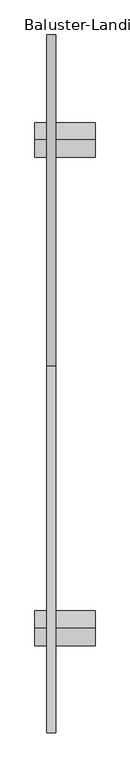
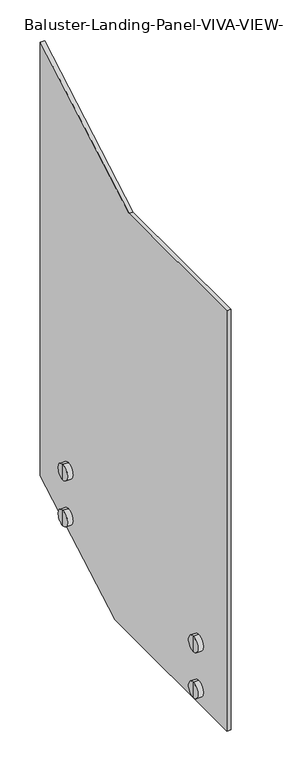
"""IFC4 building model written with IfcOpenShell, lengths in millimetres: railing geometry, Baluster-Landing-Panel-VIVA-VIEW-Upper : Standard_Glass."""

from ifc_helpers import new_model, si_unit, frame, origin, place, context, project, spatial, polyline, circle_curve, outline, extrude, source, transform, mapped, element, save
from ifc_brep_helpers import plane_surface, cylinder_surface, advanced_brep


def baluster_landing_panel_viva_view_upper_standard_glass_61d0895f(model_context):
    return source(origin(), model_context, "Body", "SolidModel", [
        advanced_brep(
        [(14.1452292, -152.4, -161.189208), (14.1452292, -152.4, -110.389208), (14.1452292, -152.4, -135.789208), (31.6077292, -152.4, -161.189208), (31.6077292, -152.4, -110.389208), (31.6077292, -152.4, -141.504208), (31.6077292, -152.4, -130.074208), (44.3077292, -152.4, -141.504208), (44.3077292, -152.4, -130.074208), (44.3077292, -152.4, -161.189208), (44.3077292, -152.4, -110.389208), (101.4575823, -152.4, -161.189208), (101.4575823, -152.4, -110.389208), (101.4575823, -152.4, -135.789208)],
        [
            (0, 1, circle_curve(frame((14.1452292, -152.4, -135.789208), z_axis=(-1.0, 0.0, 0.0), x_axis=(0.0, 0.0, 1.0)), 25.4)),
            (1, 2),
            (2, 0),
            (1, 0, circle_curve(frame((14.1452292, -152.4, -135.789208), z_axis=(-1.0, 0.0, 0.0), x_axis=(0.0, 0.0, 1.0)), 25.4)),
            (3, 4, circle_curve(frame((31.6077292, -152.4, -135.789208), z_axis=(-1.0, 0.0, 0.0), x_axis=(0.0, 0.0, 1.0)), 25.4)),
            (4, 1),
            (0, 3),
            (4, 3, circle_curve(frame((31.6077292, -152.4, -135.789208), z_axis=(-1.0, 0.0, 0.0), x_axis=(0.0, 0.0, 1.0)), 25.4)),
            (5, 6, circle_curve(frame((31.6077292, -152.4, -135.789208), z_axis=(-1.0, 0.0, 0.0), x_axis=(0.0, 0.0, 1.0)), 5.715)),
            (6, 4),
            (3, 5),
            (6, 5, circle_curve(frame((31.6077292, -152.4, -135.789208), z_axis=(-1.0, 0.0, 0.0), x_axis=(0.0, 0.0, 1.0)), 5.715)),
            (7, 8, circle_curve(frame((44.3077292, -152.4, -135.789208), z_axis=(-1.0, 0.0, 0.0), x_axis=(0.0, 0.0, 1.0)), 5.715)),
            (8, 6),
            (5, 7),
            (8, 7, circle_curve(frame((44.3077292, -152.4, -135.789208), z_axis=(-1.0, 0.0, 0.0), x_axis=(0.0, 0.0, 1.0)), 5.715)),
            (9, 10, circle_curve(frame((44.3077292, -152.4, -135.789208), z_axis=(-1.0, 0.0, 0.0), x_axis=(0.0, 0.0, 1.0)), 25.4)),
            (10, 8),
            (7, 9),
            (10, 9, circle_curve(frame((44.3077292, -152.4, -135.789208), z_axis=(-1.0, 0.0, 0.0), x_axis=(0.0, 0.0, 1.0)), 25.4)),
            (11, 12, circle_curve(frame((101.4575823, -152.4, -135.789208), z_axis=(-1.0, 0.0, 0.0), x_axis=(0.0, 0.0, 1.0)), 25.4)),
            (12, 10),
            (9, 11),
            (12, 11, circle_curve(frame((101.4575823, -152.4, -135.789208), z_axis=(-1.0, 0.0, 0.0), x_axis=(0.0, 0.0, 1.0)), 25.4)),
            (13, 12),
            (11, 13),
        ],
        [
            plane_surface(frame((14.1452292, -152.4, -135.789208), z_axis=(-1.0, 0.0, 0.0), x_axis=(0.0, 0.0, 1.0))),
            cylinder_surface(frame((-54.1174177, -152.4, -135.789208), z_axis=(1.0, 0.0, 0.0), x_axis=(0.0, 0.0, 1.0)), 25.4),
            plane_surface(frame((31.6077292, -152.4, -135.789208), z_axis=(1.0, 0.0, 0.0), x_axis=(0.0, 0.0, 1.0))),
            cylinder_surface(frame((-54.1174177, -152.4, -135.789208), z_axis=(1.0, 0.0, 0.0), x_axis=(0.0, 0.0, 1.0)), 5.715),
            plane_surface(frame((44.3077292, -152.4, -135.789208), z_axis=(-1.0, 0.0, 0.0), x_axis=(0.0, 0.0, 1.0))),
            plane_surface(frame((101.4575823, -152.4, -135.789208), z_axis=(1.0, 0.0, 0.0), x_axis=(0.0, 0.0, 1.0))),
        ],
        [
            (0, [[1, 2, 3]]),
            (0, [[4, -3, -2]]),
            (1, [[5, 6, -1, 7]]),
            (1, [[8, -7, -4, -6]]),
            (2, [[9, 10, -5, 11]]),
            (2, [[12, -11, -8, -10]]),
            (3, [[13, 14, -9, 15]]),
            (3, [[16, -15, -12, -14]]),
            (4, [[17, 18, -13, 19]]),
            (4, [[20, -19, -16, -18]]),
            (1, [[21, 22, -17, 23]]),
            (1, [[24, -23, -20, -22]]),
            (5, [[25, -21, 26]]),
            (5, [[-26, -24, -25]]),
        ],
    ),
        advanced_brep(
        [(31.6077292, -152.4, 10.895792), (31.6077292, -152.4, 22.325792), (31.6077292, -152.4, 42.010792), (31.6077292, -152.4, -8.789208), (44.3077292, -152.4, 10.895792), (44.3077292, -152.4, 22.325792), (44.3077292, -152.4, -8.789208), (44.3077292, -152.4, 42.010792), (101.4575823, -152.4, -8.789208), (101.4575823, -152.4, 42.010792), (101.4575823, -152.4, 16.610792), (14.1452292, -152.4, -8.789208), (14.1452292, -152.4, 42.010792), (14.1452292, -152.4, 16.610792)],
        [
            (0, 1, circle_curve(frame((31.6077292, -152.4, 16.610792), z_axis=(-1.0, 0.0, 0.0), x_axis=(0.0, 0.0, 1.0)), 5.715)),
            (1, 2),
            (2, 3, circle_curve(frame((31.6077292, -152.4, 16.610792), z_axis=(1.0, 0.0, 0.0), x_axis=(0.0, 0.0, 1.0)), 25.4)),
            (3, 0),
            (1, 0, circle_curve(frame((31.6077292, -152.4, 16.610792), z_axis=(-1.0, 0.0, 0.0), x_axis=(0.0, 0.0, 1.0)), 5.715)),
            (3, 2, circle_curve(frame((31.6077292, -152.4, 16.610792), z_axis=(1.0, 0.0, 0.0), x_axis=(0.0, 0.0, 1.0)), 25.4)),
            (4, 5, circle_curve(frame((44.3077292, -152.4, 16.610792), z_axis=(-1.0, 0.0, 0.0), x_axis=(0.0, 0.0, 1.0)), 5.715)),
            (5, 1),
            (0, 4),
            (5, 4, circle_curve(frame((44.3077292, -152.4, 16.610792), z_axis=(-1.0, 0.0, 0.0), x_axis=(0.0, 0.0, 1.0)), 5.715)),
            (6, 7, circle_curve(frame((44.3077292, -152.4, 16.610792), z_axis=(-1.0, 0.0, 0.0), x_axis=(0.0, 0.0, 1.0)), 25.4)),
            (7, 5),
            (4, 6),
            (7, 6, circle_curve(frame((44.3077292, -152.4, 16.610792), z_axis=(-1.0, 0.0, 0.0), x_axis=(0.0, 0.0, 1.0)), 25.4)),
            (8, 9, circle_curve(frame((101.4575823, -152.4, 16.610792), z_axis=(-1.0, 0.0, 0.0), x_axis=(0.0, 0.0, 1.0)), 25.4)),
            (9, 7),
            (6, 8),
            (9, 8, circle_curve(frame((101.4575823, -152.4, 16.610792), z_axis=(-1.0, 0.0, 0.0), x_axis=(0.0, 0.0, 1.0)), 25.4)),
            (10, 9),
            (8, 10),
            (11, 12, circle_curve(frame((14.1452292, -152.4, 16.610792), z_axis=(-1.0, 0.0, 0.0), x_axis=(0.0, 0.0, 1.0)), 25.4)),
            (12, 13),
            (13, 11),
            (12, 11, circle_curve(frame((14.1452292, -152.4, 16.610792), z_axis=(-1.0, 0.0, 0.0), x_axis=(0.0, 0.0, 1.0)), 25.4)),
            (2, 12),
            (11, 3),
        ],
        [
            plane_surface(frame((31.6077292, -152.4, 16.610792), z_axis=(1.0, 0.0, 0.0), x_axis=(0.0, 0.0, 1.0))),
            cylinder_surface(frame((-54.1174177, -152.4, 16.610792), z_axis=(1.0, 0.0, 0.0), x_axis=(0.0, 0.0, 1.0)), 5.715),
            plane_surface(frame((44.3077292, -152.4, 16.610792), z_axis=(-1.0, 0.0, 0.0), x_axis=(0.0, 0.0, 1.0))),
            cylinder_surface(frame((-54.1174177, -152.4, 16.610792), z_axis=(1.0, 0.0, 0.0), x_axis=(0.0, 0.0, 1.0)), 25.4),
            plane_surface(frame((101.4575823, -152.4, 16.610792), z_axis=(1.0, 0.0, 0.0), x_axis=(0.0, 0.0, 1.0))),
            plane_surface(frame((14.1452292, -152.4, 16.610792), z_axis=(-1.0, 0.0, 0.0), x_axis=(0.0, 0.0, 1.0))),
        ],
        [
            (0, [[1, 2, 3, 4]]),
            (0, [[5, -4, 6, -2]]),
            (1, [[7, 8, -1, 9]]),
            (1, [[10, -9, -5, -8]]),
            (2, [[11, 12, -7, 13]]),
            (2, [[14, -13, -10, -12]]),
            (3, [[15, 16, -11, 17]]),
            (3, [[18, -17, -14, -16]]),
            (4, [[19, -15, 20]]),
            (4, [[-20, -18, -19]]),
            (5, [[21, 22, 23]]),
            (5, [[24, -23, -22]]),
            (3, [[-3, 25, -21, 26]]),
            (3, [[-6, -26, -24, -25]]),
        ],
    ),
        advanced_brep(
        [(14.1452292, -861.6322056, -300.889208), (14.1452292, -861.6322056, -250.089208), (14.1452292, -861.6322056, -275.489208), (31.6077292, -861.6322056, -300.889208), (31.6077292, -861.6322056, -250.089208), (31.6077292, -861.6322056, -281.204208), (31.6077292, -861.6322056, -269.774208), (44.3077292, -861.6322056, -281.204208), (44.3077292, -861.6322056, -269.774208), (44.3077292, -861.6322056, -300.889208), (44.3077292, -861.6322056, -250.089208), (101.4575823, -861.6322056, -300.889208), (101.4575823, -861.6322056, -250.089208), (101.4575823, -861.6322056, -275.489208)],
        [
            (0, 1, circle_curve(frame((14.1452292, -861.6322056, -275.489208), z_axis=(-1.0, 0.0, 0.0), x_axis=(0.0, 0.0, 1.0)), 25.4)),
            (1, 2),
            (2, 0),
            (1, 0, circle_curve(frame((14.1452292, -861.6322056, -275.489208), z_axis=(-1.0, 0.0, 0.0), x_axis=(0.0, 0.0, 1.0)), 25.4)),
            (3, 4, circle_curve(frame((31.6077292, -861.6322056, -275.489208), z_axis=(-1.0, 0.0, 0.0), x_axis=(0.0, 0.0, 1.0)), 25.4)),
            (4, 1),
            (0, 3),
            (4, 3, circle_curve(frame((31.6077292, -861.6322056, -275.489208), z_axis=(-1.0, 0.0, 0.0), x_axis=(0.0, 0.0, 1.0)), 25.4)),
            (5, 6, circle_curve(frame((31.6077292, -861.6322056, -275.489208), z_axis=(-1.0, 0.0, 0.0), x_axis=(0.0, 0.0, 1.0)), 5.715)),
            (6, 4),
            (3, 5),
            (6, 5, circle_curve(frame((31.6077292, -861.6322056, -275.489208), z_axis=(-1.0, 0.0, 0.0), x_axis=(0.0, 0.0, 1.0)), 5.715)),
            (7, 8, circle_curve(frame((44.3077292, -861.6322056, -275.489208), z_axis=(-1.0, 0.0, 0.0), x_axis=(0.0, 0.0, 1.0)), 5.715)),
            (8, 6),
            (5, 7),
            (8, 7, circle_curve(frame((44.3077292, -861.6322056, -275.489208), z_axis=(-1.0, 0.0, 0.0), x_axis=(0.0, 0.0, 1.0)), 5.715)),
            (9, 10, circle_curve(frame((44.3077292, -861.6322056, -275.489208), z_axis=(-1.0, 0.0, 0.0), x_axis=(0.0, 0.0, 1.0)), 25.4)),
            (10, 8),
            (7, 9),
            (10, 9, circle_curve(frame((44.3077292, -861.6322056, -275.489208), z_axis=(-1.0, 0.0, 0.0), x_axis=(0.0, 0.0, 1.0)), 25.4)),
            (11, 12, circle_curve(frame((101.4575823, -861.6322056, -275.489208), z_axis=(-1.0, 0.0, 0.0), x_axis=(0.0, 0.0, 1.0)), 25.4)),
            (12, 10),
            (9, 11),
            (12, 11, circle_curve(frame((101.4575823, -861.6322056, -275.489208), z_axis=(-1.0, 0.0, 0.0), x_axis=(0.0, 0.0, 1.0)), 25.4)),
            (13, 12),
            (11, 13),
        ],
        [
            plane_surface(frame((14.1452292, -861.6322056, -275.489208), z_axis=(-1.0, 0.0, 0.0), x_axis=(0.0, 0.0, 1.0))),
            cylinder_surface(frame((-54.1174177, -861.6322056, -275.489208), z_axis=(1.0, 0.0, 0.0), x_axis=(0.0, 0.0, 1.0)), 25.4),
            plane_surface(frame((31.6077292, -861.6322056, -275.489208), z_axis=(1.0, 0.0, 0.0), x_axis=(0.0, 0.0, 1.0))),
            cylinder_surface(frame((-54.1174177, -861.6322056, -275.489208), z_axis=(1.0, 0.0, 0.0), x_axis=(0.0, 0.0, 1.0)), 5.715),
            plane_surface(frame((44.3077292, -861.6322056, -275.489208), z_axis=(-1.0, 0.0, 0.0), x_axis=(0.0, 0.0, 1.0))),
            plane_surface(frame((101.4575823, -861.6322056, -275.489208), z_axis=(1.0, 0.0, 0.0), x_axis=(0.0, 0.0, 1.0))),
        ],
        [
            (0, [[1, 2, 3]]),
            (0, [[4, -3, -2]]),
            (1, [[5, 6, -1, 7]]),
            (1, [[8, -7, -4, -6]]),
            (2, [[9, 10, -5, 11]]),
            (2, [[12, -11, -8, -10]]),
            (3, [[13, 14, -9, 15]]),
            (3, [[16, -15, -12, -14]]),
            (4, [[17, 18, -13, 19]]),
            (4, [[20, -19, -16, -18]]),
            (1, [[21, 22, -17, 23]]),
            (1, [[24, -23, -20, -22]]),
            (5, [[25, -21, 26]]),
            (5, [[-26, -24, -25]]),
        ],
    ),
        advanced_brep(
        [(31.6077292, -861.6322056, -128.804208), (31.6077292, -861.6322056, -117.374208), (31.6077292, -861.6322056, -97.689208), (31.6077292, -861.6322056, -148.489208), (44.3077292, -861.6322056, -128.804208), (44.3077292, -861.6322056, -117.374208), (44.3077292, -861.6322056, -148.489208), (44.3077292, -861.6322056, -97.689208), (101.4575823, -861.6322056, -148.489208), (101.4575823, -861.6322056, -97.689208), (101.4575823, -861.6322056, -123.089208), (14.1452292, -861.6322056, -148.489208), (14.1452292, -861.6322056, -97.689208), (14.1452292, -861.6322056, -123.089208)],
        [
            (0, 1, circle_curve(frame((31.6077292, -861.6322056, -123.089208), z_axis=(-1.0, 0.0, 0.0), x_axis=(0.0, 0.0, 1.0)), 5.715)),
            (1, 2),
            (2, 3, circle_curve(frame((31.6077292, -861.6322056, -123.089208), z_axis=(1.0, 0.0, 0.0), x_axis=(0.0, 0.0, 1.0)), 25.4)),
            (3, 0),
            (1, 0, circle_curve(frame((31.6077292, -861.6322056, -123.089208), z_axis=(-1.0, 0.0, 0.0), x_axis=(0.0, 0.0, 1.0)), 5.715)),
            (3, 2, circle_curve(frame((31.6077292, -861.6322056, -123.089208), z_axis=(1.0, 0.0, 0.0), x_axis=(0.0, 0.0, 1.0)), 25.4)),
            (4, 5, circle_curve(frame((44.3077292, -861.6322056, -123.089208), z_axis=(-1.0, 0.0, 0.0), x_axis=(0.0, 0.0, 1.0)), 5.715)),
            (5, 1),
            (0, 4),
            (5, 4, circle_curve(frame((44.3077292, -861.6322056, -123.089208), z_axis=(-1.0, 0.0, 0.0), x_axis=(0.0, 0.0, 1.0)), 5.715)),
            (6, 7, circle_curve(frame((44.3077292, -861.6322056, -123.089208), z_axis=(-1.0, 0.0, 0.0), x_axis=(0.0, 0.0, 1.0)), 25.4)),
            (7, 5),
            (4, 6),
            (7, 6, circle_curve(frame((44.3077292, -861.6322056, -123.089208), z_axis=(-1.0, 0.0, 0.0), x_axis=(0.0, 0.0, 1.0)), 25.4)),
            (8, 9, circle_curve(frame((101.4575823, -861.6322056, -123.089208), z_axis=(-1.0, 0.0, 0.0), x_axis=(0.0, 0.0, 1.0)), 25.4)),
            (9, 7),
            (6, 8),
            (9, 8, circle_curve(frame((101.4575823, -861.6322056, -123.089208), z_axis=(-1.0, 0.0, 0.0), x_axis=(0.0, 0.0, 1.0)), 25.4)),
            (10, 9),
            (8, 10),
            (11, 12, circle_curve(frame((14.1452292, -861.6322056, -123.089208), z_axis=(-1.0, 0.0, 0.0), x_axis=(0.0, 0.0, 1.0)), 25.4)),
            (12, 13),
            (13, 11),
            (12, 11, circle_curve(frame((14.1452292, -861.6322056, -123.089208), z_axis=(-1.0, 0.0, 0.0), x_axis=(0.0, 0.0, 1.0)), 25.4)),
            (2, 12),
            (11, 3),
        ],
        [
            plane_surface(frame((31.6077292, -861.6322056, -123.089208), z_axis=(1.0, 0.0, 0.0), x_axis=(0.0, 0.0, 1.0))),
            cylinder_surface(frame((-54.1174177, -861.6322056, -123.089208), z_axis=(1.0, 0.0, 0.0), x_axis=(0.0, 0.0, 1.0)), 5.715),
            plane_surface(frame((44.3077292, -861.6322056, -123.089208), z_axis=(-1.0, 0.0, 0.0), x_axis=(0.0, 0.0, 1.0))),
            cylinder_surface(frame((-54.1174177, -861.6322056, -123.089208), z_axis=(1.0, 0.0, 0.0), x_axis=(0.0, 0.0, 1.0)), 25.4),
            plane_surface(frame((101.4575823, -861.6322056, -123.089208), z_axis=(1.0, 0.0, 0.0), x_axis=(0.0, 0.0, 1.0))),
            plane_surface(frame((14.1452292, -861.6322056, -123.089208), z_axis=(-1.0, 0.0, 0.0), x_axis=(0.0, 0.0, 1.0))),
        ],
        [
            (0, [[1, 2, 3, 4]]),
            (0, [[5, -4, 6, -2]]),
            (1, [[7, 8, -1, 9]]),
            (1, [[10, -9, -5, -8]]),
            (2, [[11, 12, -7, 13]]),
            (2, [[14, -13, -10, -12]]),
            (3, [[15, 16, -11, 17]]),
            (3, [[18, -17, -14, -16]]),
            (4, [[19, -15, 20]]),
            (4, [[-20, -18, -19]]),
            (5, [[21, 22, 23]]),
            (5, [[24, -23, -22]]),
            (3, [[-3, 25, -21, 26]]),
            (3, [[-6, -26, -24, -25]]),
        ],
    ),
        extrude(outline(polyline([(-481.6709032, 1067.6292413), (0.0, 1342.8153248), (0.0, -94.5477587), (-405.6277548, -326.289208), (-1014.0322056, -326.289208), (-1014.0322056, 1067.6292413), (-481.6709032, 1067.6292413)])), frame((31.6077292, 0.0, 0.0), z_axis=(1.0, 0.0, 0.0), x_axis=(0.0, 1.0, 0.0)), (0.0, 0.0, 1.0), 12.7),
    ])


if __name__ == "__main__":
    model = new_model("IFC4")
    model_context = context("Model", 3, world=origin())
    ifc_project = project(units=[si_unit("LENGTHUNIT", "METRE", prefix="MILLI")], contexts=[model_context])
    site = spatial("IfcSite", under=ifc_project)
    building = spatial("IfcBuilding", under=site)
    placement = place(None, origin())
    baluster_landing_panel_viva_view_upper_standard_glass_shape = baluster_landing_panel_viva_view_upper_standard_glass_61d0895f(model_context)
    element("IfcRailing", 1, ObjectType="Baluster-Landing-Panel-VIVA-VIEW-Upper : Standard_Glass", at=placement, inside=building, context=model_context, shape_type="MappedRepresentation", body=[
        mapped(baluster_landing_panel_viva_view_upper_standard_glass_shape, transform((0.0, 0.0, 0.0), x_axis=(1.0, 0.0, 0.0), y_axis=(0.0, 1.0, 0.0), z_axis=(0.0, 0.0, 1.0))),
    ])
    save(model, "model.ifc")
